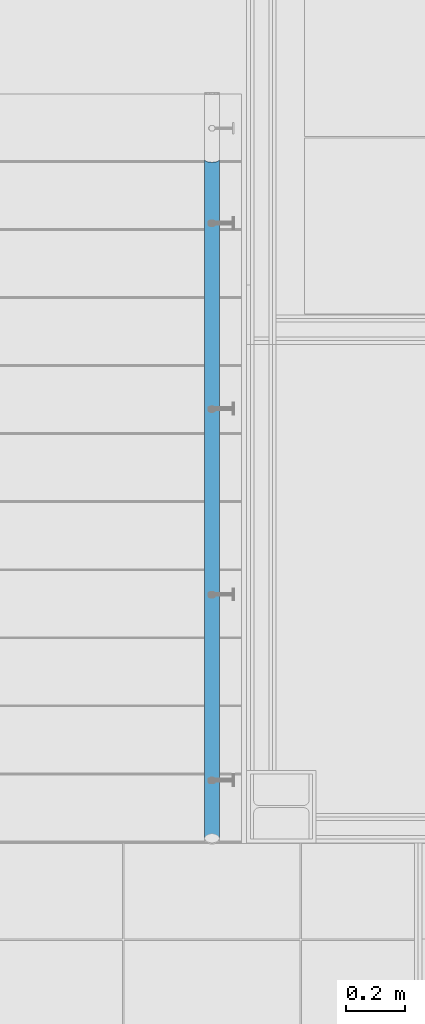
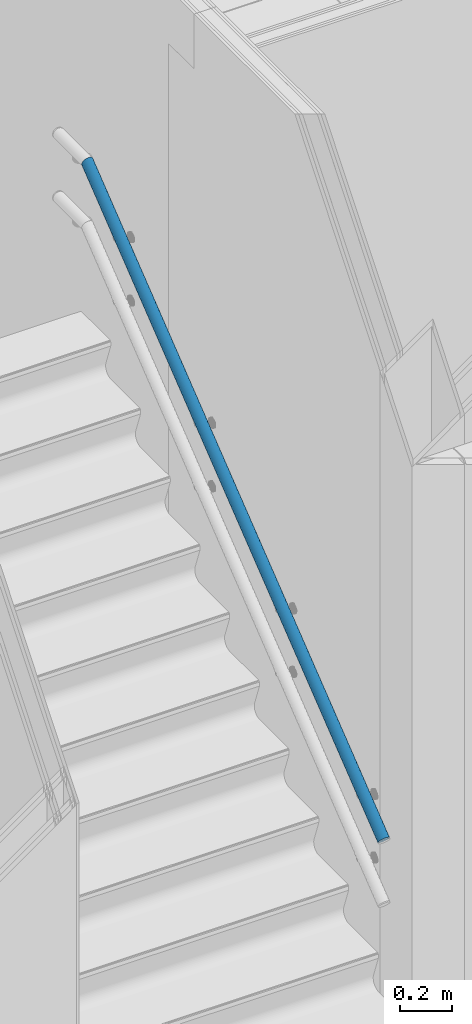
# One storey, part 14 of 338: 1 building element part, 2 elements without a shape of their own.
"""IFC2X3 building model written with IfcOpenShell, lengths in millimetres."""

from ifc_helpers import new_model, entity, si_unit, converted_unit, derived_unit, money_unit, direction, frame, origin_with_axes, place, context, subcontext, project, spatial, faceted_brep, source, transform, mapped, material, type_object, element, aggregate, save


model = new_model("IFC2X3")

# Units and contexts
model_context = context("Model", 3, precision=0.01, world=origin_with_axes(), true_north=direction((0.0, 1.0)))
plan_context = context("Plan", 3, precision=0.01, world=origin_with_axes(), true_north=direction((0.0, 1.0)))
body_context = subcontext(model_context, "Body", "Model", "MODEL_VIEW")
ifc_project = project(units=[si_unit("LENGTHUNIT", "METRE", prefix="MILLI"), si_unit("AREAUNIT", "SQUARE_METRE"), si_unit("VOLUMEUNIT", "CUBIC_METRE"), converted_unit("PLANEANGLEUNIT", "DEGREE", entity("IfcPlaneAngleMeasure", 0.0174532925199), si_unit("PLANEANGLEUNIT", "RADIAN"), dimensions=[0, 0, 0, 0, 0, 0, 0]), money_unit("EUR"), converted_unit("TIMEUNIT", "Year", entity("IfcTimeMeasure", 31556926.0), si_unit("TIMEUNIT", "SECOND"), dimensions=[0, 0, 1, 0, 0, 0, 0]), si_unit("MASSUNIT", "GRAM", prefix="KILO"), si_unit("THERMODYNAMICTEMPERATUREUNIT", "DEGREE_CELSIUS"), si_unit("LUMINOUSINTENSITYUNIT", "LUMEN"), si_unit("ENERGYUNIT", "JOULE", prefix="MEGA"), derived_unit("THERMALCONDUCTANCEUNIT", [(si_unit("POWERUNIT", "WATT"), 1), (si_unit("LENGTHUNIT", "METRE"), -1), (si_unit("THERMODYNAMICTEMPERATUREUNIT", "KELVIN"), -1)]), derived_unit("SPECIFICHEATCAPACITYUNIT", [(si_unit("ENERGYUNIT", "JOULE"), 1), (si_unit("MASSUNIT", "GRAM", prefix="KILO"), -1), (si_unit("THERMODYNAMICTEMPERATUREUNIT", "KELVIN"), -1)]), derived_unit("MASSDENSITYUNIT", [(si_unit("MASSUNIT", "GRAM", prefix="KILO"), 1), (si_unit("VOLUMEUNIT", "CUBIC_METRE"), -1)])], contexts=[model_context, plan_context])

# Site, building, storey
site_placement = place(None, origin_with_axes())
site = spatial("IfcSite", under=ifc_project, at=site_placement, Name="Fortuinstraat Woensdrecht", CompositionType="ELEMENT")
building_placement = place(site_placement, origin_with_axes())
building = spatial("IfcBuilding", under=site, at=building_placement, Name="IKC Fortuna", CompositionType="ELEMENT")
storey_placement = place(building_placement, origin_with_axes())
storey = spatial("IfcBuildingStorey", under=building, at=storey_placement, Name="00 begane grond", CompositionType="ELEMENT", Elevation=0.0)

# Railing, member, building element part
railing_type = type_object("IfcRailingType", Name="Railing Type", PredefinedType="NOTDEFINED")
railing_placement = place(storey_placement, frame((28891.8811335, 19719.7895441, 0.568181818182), z_axis=(0.0, 0.0, 1.0), x_axis=(0.642787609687, -0.766044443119, 0.0)))
railing = element("IfcRailing", 1, at=railing_placement, inside=storey, type_object=railing_type, Name="_Reling_Reling-x", PredefinedType="NOTDEFINED")
member_type = type_object("IfcMemberType", Name="IfcMember", PredefinedType="USERDEFINED")
member_placement = place(railing_placement, frame((-1043.1231369, 670.405582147, 1025.34830056), z_axis=(0.0, 0.0, 1.0), x_axis=(0.642787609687, 0.766044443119, 0.0)))
member = element("IfcMember", 2, at=member_placement, type_object=member_type, Name="_Reling - regel_Handregel-x")
aggregate(railing, [member])
ifc_material = material(Name="Hout AFW")
shared_shape = source(origin_with_axes(), body_context, "Body", "Brep", [
    faceted_brep([(-125.0, 15.5036710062, 880.387856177), (-124.620193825, 12.8114867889, 883.793469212), (-124.620193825, 2307.17937185, 2697.52302262), (-125.0, 2308.68803294, 2693.18181818), (-124.620193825, 18.1958552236, 876.982243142), (-123.49231552, 20.8062387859, 873.680107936), (-121.650635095, 23.2555065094, 870.581784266), (-119.151111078, 25.4692386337, 867.781413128), (-116.069690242, 27.3801720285, 865.364082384), (-112.5, 28.9302439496, 863.403241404), (-108.550503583, 30.0723562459, 861.958469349), (-104.341204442, 30.7718064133, 861.073664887), (-100.0, 31.0073420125, 860.775712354), (-95.6587955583, 30.7718064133, 861.073664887), (-91.4494964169, 30.0723562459, 861.958469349), (-87.5, 28.9302439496, 863.403241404), (-83.9303097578, 27.3801720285, 865.364082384), (-80.848888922, 25.4692386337, 867.781413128), (-78.3493649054, 23.2555065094, 870.581784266), (-76.5076844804, 20.8062387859, 873.680107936), (-75.3798061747, 18.1958552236, 876.982243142), (-75.0, 15.5036710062, 880.387856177), (-75.3798061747, 12.8114867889, 883.793469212), (-76.5076844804, 10.2011032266, 887.095604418), (-78.3493649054, 7.75183550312, 890.193928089), (-80.848888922, 5.53810337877, 892.994299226), (-83.9303097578, 3.62716998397, 895.41162997), (-87.5, 2.07709806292, 897.37247095), (-91.4494964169, 0.934985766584, 898.817243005), (-95.6587955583, 0.235535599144, 899.702047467), (-100.0, 0.0, 900.0), (-104.341204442, 0.235535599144, 899.702047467), (-108.550503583, 0.934985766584, 898.817243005), (-112.5, 2.07709806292, 897.37247095), (-116.069690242, 3.62716998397, 895.41162997), (-119.151111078, 5.53810337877, 892.994299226), (-121.650635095, 7.75183550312, 890.193928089), (-123.49231552, 10.2011032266, 887.095604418), (-123.49231552, 2305.71655067, 2701.73232176), (-121.650635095, 2304.34401647, 2705.68181818), (-119.151111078, 2303.10347301, 2709.25150842), (-116.069690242, 2302.03261359, 2712.33292926), (-112.5, 2301.16397571, 2714.83245328), (-108.550503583, 2300.5239525, 2716.6741337), (-104.341204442, 2300.13199074, 2717.80201201), (-100.0, 2300.0, 2718.18181818), (-95.6587955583, 2300.13199074, 2717.80201201), (-91.4494964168, 2300.5239525, 2716.6741337), (-87.5, 2301.16397571, 2714.83245328), (-83.9303097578, 2302.03261359, 2712.33292926), (-80.848888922, 2303.10347301, 2709.25150842), (-78.3493649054, 2304.34401647, 2705.68181818), (-76.5076844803, 2305.71655067, 2701.73232176), (-75.3798061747, 2307.17937185, 2697.52302262), (-75.0, 2308.68803294, 2693.18181818), (-75.3798061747, 2310.19669403, 2688.84061374), (-76.5076844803, 2311.65951521, 2684.6313146), (-78.3493649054, 2313.03204941, 2680.68181818), (-80.848888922, 2314.27259287, 2677.11212794), (-83.9303097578, 2315.3434523, 2674.0307071), (-87.5, 2316.21209018, 2671.53118309), (-91.4494964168, 2316.85211339, 2669.68950266), (-95.6587955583, 2317.24407514, 2668.56162436), (-100.0, 2317.37606588, 2668.18181818), (-104.341204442, 2317.24407514, 2668.56162436), (-108.550503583, 2316.85211339, 2669.68950266), (-112.5, 2316.21209018, 2671.53118309), (-116.069690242, 2315.3434523, 2674.0307071), (-119.151111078, 2314.27259287, 2677.11212794), (-121.650635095, 2313.03204941, 2680.68181818), (-123.49231552, 2311.65951521, 2684.6313146), (-124.620193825, 2310.19669403, 2688.84061374)], [[[0, 1, 2, 3]], [[0, 4, 5, 6, 7, 8, 9, 10, 11, 12, 13, 14, 15, 16, 17, 18, 19, 20, 21, 22, 23, 24, 25, 26, 27, 28, 29, 30, 31, 32, 33, 34, 35, 36, 37, 1]], [[1, 37, 38, 2]], [[3, 2, 38, 39, 40, 41, 42, 43, 44, 45, 46, 47, 48, 49, 50, 51, 52, 53, 54, 55, 56, 57, 58, 59, 60, 61, 62, 63, 64, 65, 66, 67, 68, 69, 70, 71]], [[4, 0, 3, 71]], [[5, 4, 71, 70]], [[6, 5, 70, 69]], [[7, 6, 69, 68]], [[8, 7, 68, 67]], [[9, 8, 67, 66]], [[10, 9, 66, 65]], [[11, 10, 65, 64]], [[12, 11, 64, 63]], [[13, 12, 63, 62]], [[14, 13, 62, 61]], [[15, 14, 61, 60]], [[16, 15, 60, 59]], [[17, 16, 59, 58]], [[18, 17, 58, 57]], [[19, 18, 57, 56]], [[20, 19, 56, 55]], [[21, 20, 55, 54]], [[22, 21, 54, 53]], [[23, 22, 53, 52]], [[24, 23, 52, 51]], [[25, 24, 51, 50]], [[26, 25, 50, 49]], [[27, 26, 49, 48]], [[28, 27, 48, 47]], [[29, 28, 47, 46]], [[30, 29, 46, 45]], [[31, 30, 45, 44]], [[32, 31, 44, 43]], [[33, 32, 43, 42]], [[34, 33, 42, 41]], [[35, 34, 41, 40]], [[36, 35, 40, 39]], [[37, 36, 39, 38]]]),
])
building_element_part_placement = place(member_placement, origin_with_axes())
building_element_part = element("IfcBuildingElementPart", 3, at=building_element_part_placement, material=ifc_material, Name="Hout AFW", context=body_context, shape_type="MappedRepresentation", body=[
    mapped(shared_shape, transform((100.0, -1150.0, -844.098300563))),
])
aggregate(member, [building_element_part])

save(model, "model.ifc")
